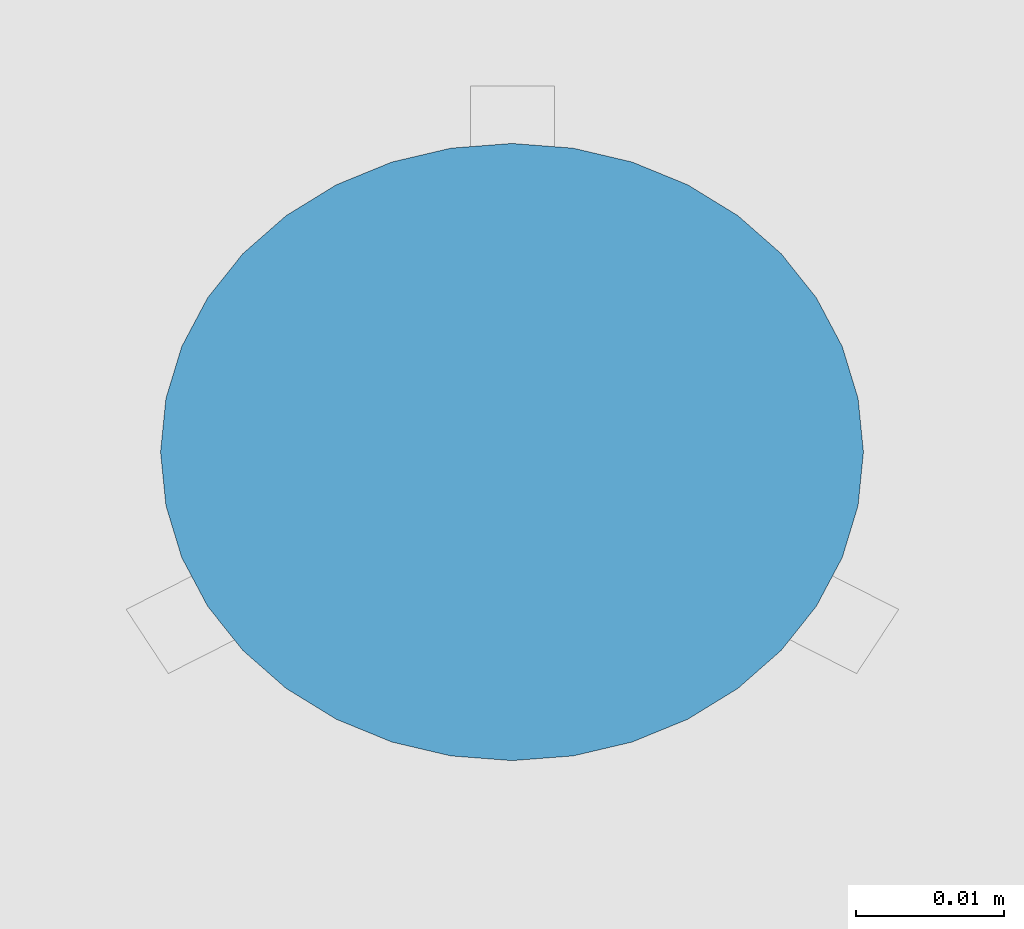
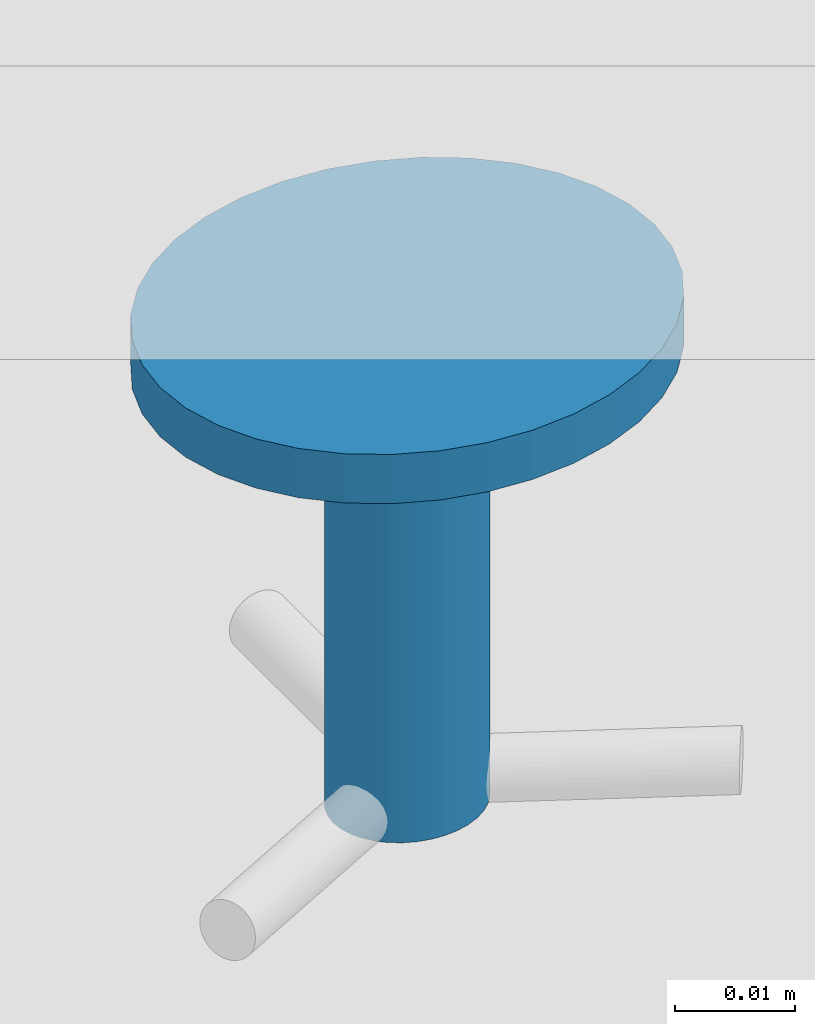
# One storey, part 125 of 788: 1 building element part, 1 element without a shape of its own.
"""IFC2X3 building model written with IfcOpenShell, lengths in millimetres."""

from ifc_helpers import new_model, entity, si_unit, converted_unit, derived_unit, money_unit, direction, frame, origin_with_axes, place, context, subcontext, project, spatial, faceted_brep, source, transform, mapped, material, type_object, element, aggregate, save


model = new_model("IFC2X3")

# Units and contexts
model_context = context("Model", 3, precision=0.01, world=origin_with_axes(), true_north=direction((0.0, 1.0)))
plan_context = context("Plan", 3, precision=0.01, world=origin_with_axes(), true_north=direction((0.0, 1.0)))
body_context = subcontext(model_context, "Body", "Model", "MODEL_VIEW")
ifc_project = project(units=[si_unit("LENGTHUNIT", "METRE", prefix="MILLI"), si_unit("AREAUNIT", "SQUARE_METRE"), si_unit("VOLUMEUNIT", "CUBIC_METRE"), converted_unit("PLANEANGLEUNIT", "DEGREE", entity("IfcPlaneAngleMeasure", 0.0174532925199), si_unit("PLANEANGLEUNIT", "RADIAN"), dimensions=[0, 0, 0, 0, 0, 0, 0]), money_unit("EUR"), converted_unit("TIMEUNIT", "Year", entity("IfcTimeMeasure", 31556926.0), si_unit("TIMEUNIT", "SECOND"), dimensions=[0, 0, 1, 0, 0, 0, 0]), si_unit("MASSUNIT", "GRAM", prefix="KILO"), si_unit("THERMODYNAMICTEMPERATUREUNIT", "DEGREE_CELSIUS"), si_unit("LUMINOUSINTENSITYUNIT", "LUMEN"), si_unit("ENERGYUNIT", "JOULE", prefix="MEGA"), derived_unit("THERMALCONDUCTANCEUNIT", [(si_unit("POWERUNIT", "WATT"), 1), (si_unit("LENGTHUNIT", "METRE"), -1), (si_unit("THERMODYNAMICTEMPERATUREUNIT", "KELVIN"), -1)]), derived_unit("SPECIFICHEATCAPACITYUNIT", [(si_unit("ENERGYUNIT", "JOULE"), 1), (si_unit("MASSUNIT", "GRAM", prefix="KILO"), -1), (si_unit("THERMODYNAMICTEMPERATUREUNIT", "KELVIN"), -1)]), derived_unit("MASSDENSITYUNIT", [(si_unit("MASSUNIT", "GRAM", prefix="KILO"), 1), (si_unit("VOLUMEUNIT", "CUBIC_METRE"), -1)])], contexts=[model_context, plan_context])

# Site, building, storey
site_placement = place(None, origin_with_axes())
site = spatial("IfcSite", under=ifc_project, at=site_placement, Name="Site", CompositionType="ELEMENT")
building_placement = place(site_placement, origin_with_axes())
building = spatial("IfcBuilding", under=site, at=building_placement, Name="Naam gebouw", CompositionType="ELEMENT")
storey_placement = place(building_placement, origin_with_axes())
storey = spatial("IfcBuildingStorey", under=building, at=storey_placement, Name="Begane grond", CompositionType="ELEMENT", Elevation=0.0)

# Proxy, building element part
building_element_proxy_type = type_object("IfcBuildingElementProxyType", Name="plafondhaak", PredefinedType="NOTDEFINED")
proxy_placement = place(storey_placement, frame((8407.51467833, 25144.5522154, 1211.0), z_axis=(0.0, 0.0, 1.0), x_axis=(0.0, 1.0, 0.0)))
proxy = element("IfcBuildingElementProxy", 1, at=proxy_placement, inside=storey, type_object=building_element_proxy_type, Name="garderobehaak")
ifc_material = material(Name="_Dichte arcering")
shared_shape = source(origin_with_axes(), body_context, "Body", "Brep", [
    faceted_brep([(-17.5871200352, 3.81461944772, 50.0), (-17.5871200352, 3.81461944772, 45.0), (-14.2952839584, 5.56266277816, 45.0), (-14.2952839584, 5.56266277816, 50.0), (-21.0954971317, 2.74408618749, 50.0), (-21.0954971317, 2.74408618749, 45.0), (-5.13338153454, 17.9967404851, 45.0), (-6.66838990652, 14.2480494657, 45.0), (-8.75169938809, 10.8598540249, 45.0), (-11.3200096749, 7.93510276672, 45.0), (-24.7138149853, 2.38359060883, 45.0), (-28.3321328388, 2.74408618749, 45.0), (-31.8405099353, 3.81461944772, 45.0), (-35.1323460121, 5.56266277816, 45.0), (-38.1076202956, 7.93510276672, 45.0), (-40.6759305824, 10.8598540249, 45.0), (-42.759240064, 14.2480494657, 45.0), (-44.294248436, 17.9967404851, 45.0), (-45.2343152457, 21.9920250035, 45.0), (-45.550877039, 26.1125083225, 45.0), (-45.2343152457, 30.2329916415, 45.0), (-44.294248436, 34.2282761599, 45.0), (-42.759240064, 37.9769671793, 45.0), (-40.6759305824, 41.3651626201, 45.0), (-38.1076202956, 44.2899138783, 45.0), (-35.1323460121, 46.6623538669, 45.0), (-31.8405099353, 48.4103971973, 45.0), (-28.3321328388, 49.4809304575, 45.0), (-24.7138149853, 49.8414260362, 45.0), (-21.0954971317, 49.4809304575, 45.0), (-17.5871200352, 48.4103971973, 45.0), (-14.2952839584, 46.6623538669, 45.0), (-11.3200096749, 44.2899138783, 45.0), (-8.75169938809, 41.3651626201, 45.0), (-6.66838990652, 37.9769671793, 45.0), (-5.13338153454, 34.2282761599, 45.0), (-4.19331472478, 30.2329916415, 45.0), (-3.87675293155, 26.1125083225, 45.0), (-4.19331472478, 21.9920250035, 45.0), (-24.7138149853, 18.9938330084, 45.0), (-23.6283196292, 19.101981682, 45.0), (-22.5758065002, 19.4231416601, 45.0), (-21.5882556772, 19.9475546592, 45.0), (-20.6956733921, 20.6592866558, 45.0), (-19.9251803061, 21.5367120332, 45.0), (-19.3001874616, 22.5531706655, 45.0), (-18.83968495, 23.6777779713, 45.0), (-18.5576649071, 24.8763633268, 45.0), (-18.4626963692, 26.1125083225, 45.0), (-18.5576649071, 27.3486533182, 45.0), (-18.83968495, 28.5472386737, 45.0), (-19.3001874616, 29.6718459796, 45.0), (-19.9251803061, 30.6883046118, 45.0), (-20.6956733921, 31.5657299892, 45.0), (-21.5882556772, 32.2774619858, 45.0), (-22.5758065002, 32.8018749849, 45.0), (-23.6283196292, 33.123034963, 45.0), (-24.7138149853, 33.2311836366, 45.0), (-25.7993103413, 33.123034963, 45.0), (-26.8518234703, 32.8018749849, 45.0), (-27.8393742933, 32.2774619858, 45.0), (-28.7319565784, 31.5657299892, 45.0), (-29.5024496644, 30.6883046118, 45.0), (-30.1274425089, 29.6718459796, 45.0), (-30.5879450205, 28.5472386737, 45.0), (-30.8699650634, 27.3486533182, 45.0), (-30.9649336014, 26.1125083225, 45.0), (-30.8699650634, 24.8763633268, 45.0), (-30.5879450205, 23.6777779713, 45.0), (-30.1274425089, 22.5531706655, 45.0), (-29.5024496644, 21.5367120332, 45.0), (-28.7319565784, 20.6592866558, 45.0), (-27.8393742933, 19.9475546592, 45.0), (-26.8518234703, 19.4231416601, 45.0), (-25.7993103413, 19.101981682, 45.0), (-11.3200096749, 7.93510276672, 50.0), (-8.75169938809, 10.8598540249, 50.0), (-6.66838990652, 14.2480494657, 50.0), (-5.13338153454, 17.9967404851, 50.0), (-4.19331472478, 21.9920250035, 50.0), (-3.87675293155, 26.1125083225, 50.0), (-4.19331472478, 30.2329916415, 50.0), (-5.13338153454, 34.2282761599, 50.0), (-6.66838990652, 37.9769671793, 50.0), (-8.75169938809, 41.3651626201, 50.0), (-11.3200096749, 44.2899138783, 50.0), (-14.2952839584, 46.6623538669, 50.0), (-17.5871200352, 48.4103971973, 50.0), (-21.0954971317, 49.4809304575, 50.0), (-24.7138149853, 49.8414260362, 50.0), (-28.3321328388, 49.4809304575, 50.0), (-31.8405099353, 48.4103971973, 50.0), (-35.1323460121, 46.6623538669, 50.0), (-38.1076202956, 44.2899138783, 50.0), (-40.6759305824, 41.3651626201, 50.0), (-42.759240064, 37.9769671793, 50.0), (-44.294248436, 34.2282761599, 50.0), (-45.2343152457, 30.2329916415, 50.0), (-45.550877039, 26.1125083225, 50.0), (-45.2343152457, 21.9920250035, 50.0), (-44.294248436, 17.9967404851, 50.0), (-42.759240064, 14.2480494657, 50.0), (-40.6759305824, 10.8598540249, 50.0), (-38.1076202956, 7.93510276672, 50.0), (-35.1323460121, 5.56266277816, 50.0), (-31.8405099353, 3.81461944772, 50.0), (-28.3321328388, 2.74408618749, 50.0), (-24.7138149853, 2.38359060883, 50.0), (-24.7138149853, 18.9938330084, 0.0), (-23.6283196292, 19.101981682, 0.0), (-22.5758065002, 19.4231416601, 0.0), (-21.5882556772, 19.9475546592, 0.0), (-20.6956733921, 20.6592866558, 0.0), (-19.9251803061, 21.5367120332, 0.0), (-19.3001874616, 22.5531706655, 0.0), (-18.83968495, 23.6777779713, 0.0), (-18.5576649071, 24.8763633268, 0.0), (-18.4626963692, 26.1125083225, 0.0), (-18.5576649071, 27.3486533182, 0.0), (-18.83968495, 28.5472386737, 0.0), (-19.3001874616, 29.6718459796, 0.0), (-19.9251803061, 30.6883046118, 0.0), (-20.6956733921, 31.5657299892, 0.0), (-21.5882556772, 32.2774619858, 0.0), (-22.5758065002, 32.8018749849, 0.0), (-23.6283196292, 33.123034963, 0.0), (-24.7138149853, 33.2311836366, 0.0), (-25.7993103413, 33.123034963, 0.0), (-26.8518234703, 32.8018749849, 0.0), (-27.8393742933, 32.2774619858, 0.0), (-28.7319565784, 31.5657299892, 0.0), (-29.5024496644, 30.6883046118, 0.0), (-30.1274425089, 29.6718459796, 0.0), (-30.5879450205, 28.5472386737, 0.0), (-30.8699650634, 27.3486533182, 0.0), (-30.9649336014, 26.1125083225, 0.0), (-30.8699650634, 24.8763633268, 0.0), (-30.5879450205, 23.6777779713, 0.0), (-30.1274425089, 22.5531706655, 0.0), (-29.5024496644, 21.5367120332, 0.0), (-28.7319565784, 20.6592866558, 0.0), (-27.8393742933, 19.9475546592, 0.0), (-26.8518234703, 19.4231416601, 0.0), (-25.7993103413, 19.101981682, 0.0)], [[[0, 1, 2, 3]], [[0, 4, 5, 1]], [[6, 7, 8, 9, 2, 1, 5, 10, 11, 12, 13, 14, 15, 16, 17, 18, 19, 20, 21, 22, 23, 24, 25, 26, 27, 28, 29, 30, 31, 32, 33, 34, 35, 36, 37, 38], [39, 40, 41, 42, 43, 44, 45, 46, 47, 48, 49, 50, 51, 52, 53, 54, 55, 56, 57, 58, 59, 60, 61, 62, 63, 64, 65, 66, 67, 68, 69, 70, 71, 72, 73, 74]], [[3, 2, 9, 75]], [[3, 75, 76, 77, 78, 79, 80, 81, 82, 83, 84, 85, 86, 87, 88, 89, 90, 91, 92, 93, 94, 95, 96, 97, 98, 99, 100, 101, 102, 103, 104, 105, 106, 107, 4, 0]], [[107, 10, 5, 4]], [[77, 7, 6, 78]], [[76, 8, 7, 77]], [[9, 8, 76, 75]], [[106, 11, 10, 107]], [[105, 12, 11, 106]], [[104, 13, 12, 105]], [[103, 14, 13, 104]], [[103, 102, 15, 14]], [[102, 101, 16, 15]], [[100, 17, 16, 101]], [[99, 18, 17, 100]], [[98, 19, 18, 99]], [[97, 20, 19, 98]], [[96, 21, 20, 97]], [[95, 22, 21, 96]], [[94, 23, 22, 95]], [[93, 24, 23, 94]], [[92, 25, 24, 93]], [[91, 26, 25, 92]], [[90, 27, 26, 91]], [[89, 28, 27, 90]], [[88, 29, 28, 89]], [[30, 29, 88, 87]], [[31, 30, 87, 86]], [[32, 31, 86, 85]], [[33, 32, 85, 84]], [[83, 34, 33, 84]], [[82, 35, 34, 83]], [[81, 36, 35, 82]], [[80, 37, 36, 81]], [[79, 38, 37, 80]], [[78, 6, 38, 79]], [[40, 39, 108, 109]], [[41, 40, 109, 110]], [[110, 111, 42, 41]], [[43, 42, 111, 112]], [[112, 113, 44, 43]], [[113, 114, 45, 44]], [[114, 115, 46, 45]], [[47, 46, 115, 116]], [[116, 117, 48, 47]], [[117, 118, 49, 48]], [[118, 119, 50, 49]], [[119, 120, 51, 50]], [[120, 121, 52, 51]], [[53, 52, 121, 122]], [[122, 123, 54, 53]], [[123, 124, 55, 54]], [[124, 125, 56, 55]], [[125, 126, 57, 56]], [[58, 57, 126, 127]], [[59, 58, 127, 128]], [[60, 59, 128, 129]], [[129, 130, 61, 60]], [[130, 131, 62, 61]], [[131, 132, 63, 62]], [[64, 63, 132, 133]], [[65, 64, 133, 134]], [[66, 65, 134, 135]], [[135, 136, 67, 66]], [[68, 67, 136, 137]], [[137, 138, 69, 68]], [[70, 69, 138, 139]], [[71, 70, 139, 140]], [[72, 71, 140, 141]], [[73, 72, 141, 142]], [[74, 73, 142, 143]], [[39, 74, 143, 108]], [[109, 108, 143, 142, 141, 140, 139, 138, 137, 136, 135, 134, 133, 132, 131, 130, 129, 128, 127, 126, 125, 124, 123, 122, 121, 120, 119, 118, 117, 116, 115, 114, 113, 112, 111, 110]]]),
])
building_element_part_placement = place(proxy_placement, origin_with_axes())
building_element_part = element("IfcBuildingElementPart", 2, at=building_element_part_placement, material=ifc_material, Name="_Dichte arcering", context=body_context, shape_type="MappedRepresentation", body=[
    mapped(shared_shape, transform((0.0, 0.0, 0.0))),
])
aggregate(proxy, [building_element_part])

save(model, "model.ifc")
